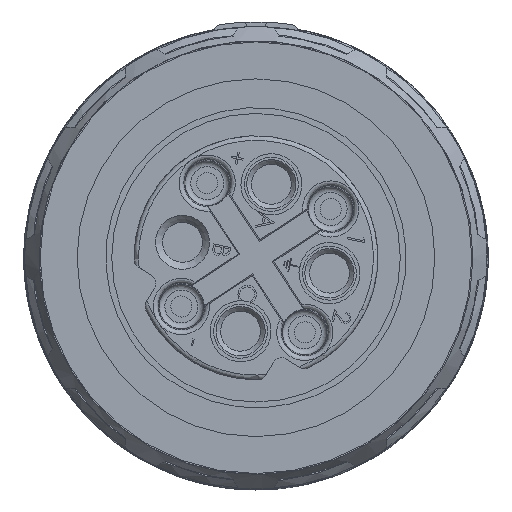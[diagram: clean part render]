
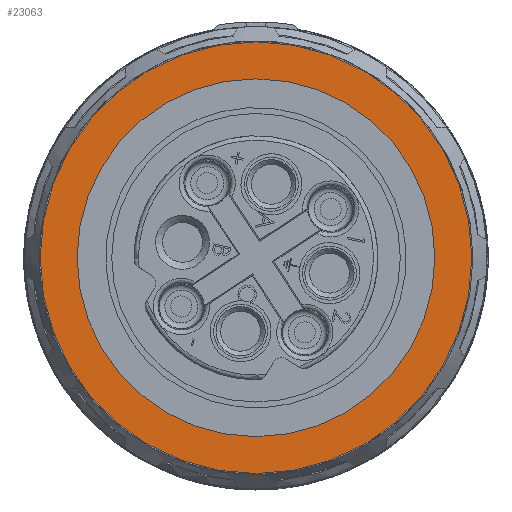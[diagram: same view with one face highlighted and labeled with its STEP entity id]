
A CAD part, front view. The second image highlights one B-rep face of the part: STEP entity #23063.
In plain terms, the highlighted planar face has unit normal (0, -1, 0).
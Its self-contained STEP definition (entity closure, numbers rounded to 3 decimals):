
#7247=ORIENTED_EDGE('',*,*,#11181,.T.);
#7248=ORIENTED_EDGE('',*,*,#11182,.F.);
#11181=EDGE_CURVE('',#13429,#13429,#14787,.T.);
#11182=EDGE_CURVE('',#13430,#13430,#14788,.T.);
#13429=VERTEX_POINT('',#35989);
#13430=VERTEX_POINT('',#35992);
#14787=CIRCLE('',#24709,7.625);
#14788=CIRCLE('',#24711,9.2);
#15725=EDGE_LOOP('',(#7247));
#15726=EDGE_LOOP('',(#7248));
#16943=FACE_BOUND('',#15725,.T.);
#16944=FACE_BOUND('',#15726,.T.);
#17953=PLANE('',#24712);
#23063=ADVANCED_FACE('',(#16943,#16944),#17953,.F.);
#24709=AXIS2_PLACEMENT_3D('',#35988,#28672,#28673);
#24711=AXIS2_PLACEMENT_3D('',#35991,#28676,#28677);
#24712=AXIS2_PLACEMENT_3D('',#35993,#28678,#28679);
#28672=DIRECTION('',(0.,1.,0.));
#28673=DIRECTION('',(1.,0.,0.));
#28676=DIRECTION('',(0.,1.,0.));
#28677=DIRECTION('',(1.,0.,0.));
#28678=DIRECTION('',(0.,1.,0.));
#28679=DIRECTION('',(0.,0.,1.));
#35988=CARTESIAN_POINT('',(0.,-32.25,0.));
#35989=CARTESIAN_POINT('',(7.625,-32.25,0.));
#35991=CARTESIAN_POINT('',(0.,-32.25,0.));
#35992=CARTESIAN_POINT('',(9.2,-32.25,0.));
#35993=CARTESIAN_POINT('',(0.,-32.25,0.));
